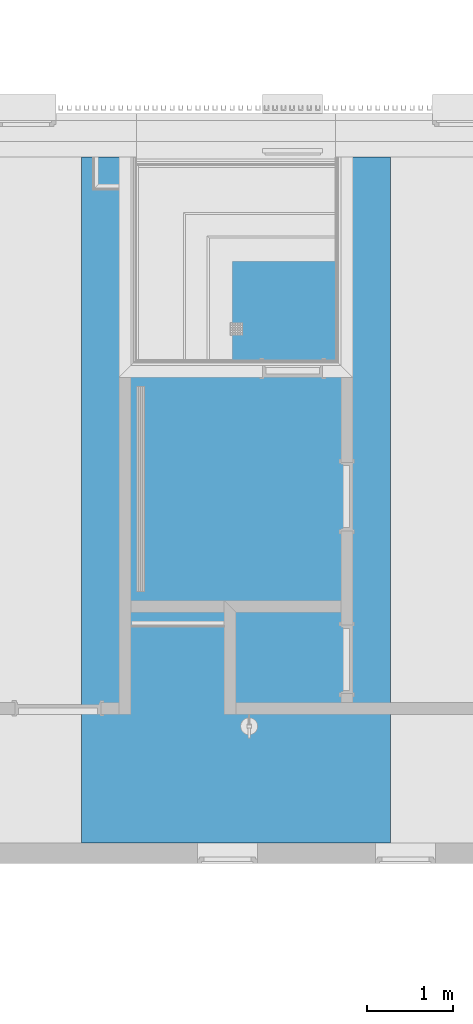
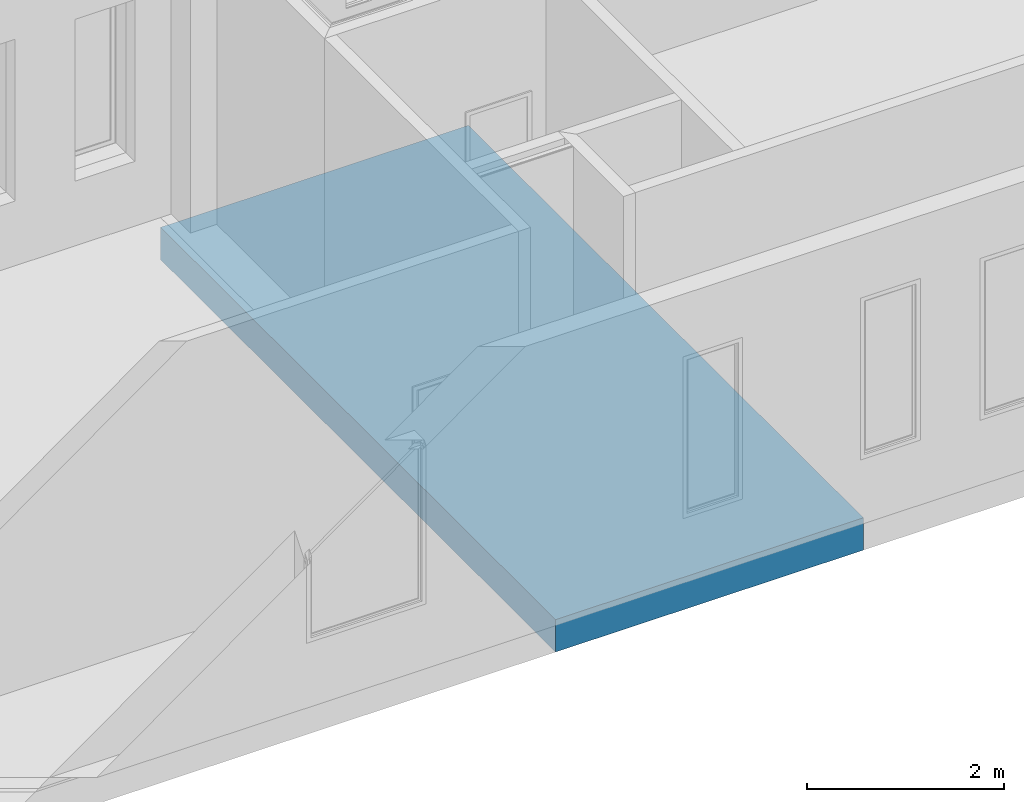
# One storey, part 62 of 100: 1 building element part, 1 element without a shape of its own.
"""IFC2X3 building model written with IfcOpenShell, lengths in millimetres."""

from ifc_helpers import new_model, entity, si_unit, converted_unit, derived_unit, money_unit, direction, frame, origin_with_axes, place, context, subcontext, project, spatial, polyline, outline, extrude, boolean, faceted_brep, material, type_object, element, aggregate, save


model = new_model("IFC2X3")

# Units and contexts
model_context = context("Model", 3, precision=0.01, world=origin_with_axes(), true_north=direction((0.0, 1.0)))
body_context = subcontext(model_context, "Body", "Model", "MODEL_VIEW")
ifc_project = project(units=[si_unit("LENGTHUNIT", "METRE", prefix="MILLI"), si_unit("AREAUNIT", "SQUARE_METRE"), si_unit("VOLUMEUNIT", "CUBIC_METRE"), converted_unit("PLANEANGLEUNIT", "DEGREE", entity("IfcPlaneAngleMeasure", 0.0174532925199), si_unit("PLANEANGLEUNIT", "RADIAN"), dimensions=[0, 0, 0, 0, 0, 0, 0]), si_unit("SOLIDANGLEUNIT", "STERADIAN"), money_unit("EUR"), converted_unit("TIMEUNIT", "Year", entity("IfcTimeMeasure", 31556926.0), si_unit("TIMEUNIT", "SECOND"), dimensions=[0, 0, 1, 0, 0, 0, 0]), si_unit("MASSUNIT", "GRAM", prefix="KILO"), si_unit("THERMODYNAMICTEMPERATUREUNIT", "DEGREE_CELSIUS"), si_unit("LUMINOUSINTENSITYUNIT", "LUMEN"), si_unit("ENERGYUNIT", "JOULE", prefix="MEGA"), derived_unit("THERMALCONDUCTANCEUNIT", [(si_unit("POWERUNIT", "WATT"), 1), (si_unit("LENGTHUNIT", "METRE"), -1), (si_unit("THERMODYNAMICTEMPERATUREUNIT", "KELVIN"), -1)]), derived_unit("SPECIFICHEATCAPACITYUNIT", [(si_unit("ENERGYUNIT", "JOULE"), 1), (si_unit("MASSUNIT", "GRAM", prefix="KILO"), -1), (si_unit("THERMODYNAMICTEMPERATUREUNIT", "KELVIN"), -1)]), derived_unit("MASSDENSITYUNIT", [(si_unit("MASSUNIT", "GRAM", prefix="KILO"), 1), (si_unit("VOLUMEUNIT", "CUBIC_METRE"), -1)])], contexts=[model_context])

# Site, building, storey
site_placement = place(None, origin_with_axes())
site = spatial("IfcSite", under=ifc_project, at=site_placement, Name="Politse- ja Piirivalveameti ning Päästeameti ühishoone", CompositionType="ELEMENT")
building_placement = place(site_placement, origin_with_axes())
building = spatial("IfcBuilding", under=site, at=building_placement, Name="Politse- ja Piirivalveameti ning Päästeameti ühishoone", CompositionType="ELEMENT")
storey_placement = place(building_placement, frame((0.0, 0.0, 3800.0), z_axis=(0.0, 0.0, 1.0), x_axis=(1.0, 0.0, 0.0)))
storey = spatial("IfcBuildingStorey", under=building, at=storey_placement, Name="Teine korrus", CompositionType="ELEMENT", Elevation=3800.0)

# Slab, building element part
slab_type = type_object("IfcSlabType", Name="VL-05_Vahelagi   400 paneel 520", PredefinedType="NOTDEFINED")
slab_placement = place(storey_placement, frame((42610.0318541, 13000.0198611, 0.0), z_axis=(0.0, 0.0, 1.0), x_axis=(1.0, 0.0, 0.0)))
slab = element("IfcSlab", 1, at=slab_placement, inside=storey, type_object=slab_type, Name="VL-05", PredefinedType="NOTDEFINED")
ifc_material = material(Name="KON-06_Raudbetoon - Konstruktsioon")
building_element_part_placement = place(slab_placement, origin_with_axes())
building_element_part = element("IfcBuildingElementPart", 2, at=building_element_part_placement, material=ifc_material, Name="KON-06_Raudbetoon - Konstruktsioon", context=body_context, shape_type="CSG", body=[
    boolean("DIFFERENCE", boolean("DIFFERENCE", boolean("DIFFERENCE", extrude(outline(polyline([(0.0, 0.0), (3599.96251087, 0.0), (3599.99627145, 7999.8850733), (-0.00384055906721, 7999.87354941), (0.0, 0.0)])), frame((0.0, 0.0, -520.0), z_axis=(0.0, 0.0, 1.0), x_axis=(1.0, 0.0, 0.0)), (0.0, 0.0, 1.0), 400.0), faceted_brep([(1730.20181919, 5919.88844434, -90.0), (1880.20181919, 5919.88844434, -90.0), (1880.20181919, 6069.88844434, -90.0), (1730.20181919, 6069.88844434, -90.0), (1849.70181919, 6039.38844434, -90.0), (1849.70181919, 6064.88844434, -90.0), (1875.20181919, 6064.88844434, -90.0), (1875.20181919, 6039.38844434, -90.0), (1849.70181919, 6010.38844434, -90.0), (1849.70181919, 6037.38844434, -90.0), (1875.20181919, 6037.38844434, -90.0), (1875.20181919, 6010.38844434, -90.0), (1849.70181919, 5981.38844434, -90.0), (1849.70181919, 6008.38844434, -90.0), (1875.20181919, 6008.38844434, -90.0), (1875.20181919, 5981.38844434, -90.0), (1849.70181919, 5952.38844434, -90.0), (1849.70181919, 5979.38844434, -90.0), (1875.20181919, 5979.38844434, -90.0), (1875.20181919, 5952.38844434, -90.0), (1820.70181919, 6039.38844434, -90.0), (1820.70181919, 6064.88844434, -90.0), (1847.70181919, 6064.88844434, -90.0), (1847.70181919, 6039.38844434, -90.0), (1820.70181919, 6010.38844434, -90.0), (1820.70181919, 6037.38844434, -90.0), (1847.70181919, 6037.38844434, -90.0), (1847.70181919, 6010.38844434, -90.0), (1820.70181919, 5981.38844434, -90.0), (1820.70181919, 6008.38844434, -90.0), (1847.70181919, 6008.38844434, -90.0), (1847.70181919, 5981.38844434, -90.0), (1820.70181919, 5952.38844434, -90.0), (1820.70181919, 5979.38844434, -90.0), (1847.70181919, 5979.38844434, -90.0), (1847.70181919, 5952.38844434, -90.0), (1791.70181919, 6039.38844434, -90.0), (1791.70181889, 6064.88844434, -90.0), (1818.70181919, 6064.88844434, -90.0), (1818.70181919, 6039.38844434, -90.0), (1791.70181919, 6010.38844434, -90.0), (1791.70181919, 6037.38844434, -90.0), (1818.70181919, 6037.38844434, -90.0), (1818.70181919, 6010.38844434, -90.0), (1791.70181919, 5981.38844434, -90.0), (1791.70181919, 6008.38844434, -90.0), (1818.70181919, 6008.38844434, -90.0), (1818.70181919, 5981.38844434, -90.0), (1791.70181919, 5952.38844434, -90.0), (1791.70181919, 5979.38844434, -90.0), (1818.70181919, 5979.38844434, -90.0), (1818.70181919, 5952.38844434, -90.0), (1762.70181919, 6039.38844434, -90.0), (1762.70181889, 6064.88844434, -90.0), (1789.70181919, 6064.88844434, -90.0), (1789.70181919, 6039.38844434, -90.0), (1762.70181919, 6010.38844434, -90.0), (1762.70181919, 6037.38844434, -90.0), (1789.70181919, 6037.38844434, -90.0), (1789.70181919, 6010.38844434, -90.0), (1762.70181919, 5981.38844434, -90.0), (1762.70181919, 6008.38844434, -90.0), (1789.70181919, 6008.38844434, -90.0), (1789.70181919, 5981.38844434, -90.0), (1762.70181919, 5952.38844434, -90.0), (1762.70181919, 5979.38844434, -90.0), (1789.70181919, 5979.38844434, -90.0), (1789.70181919, 5952.38844434, -90.0), (1735.20181919, 6039.38844434, -90.0), (1735.20181919, 6064.88844434, -90.0), (1760.70181919, 6064.88844434, -90.0), (1760.70181919, 6039.38844434, -90.0), (1735.20181919, 6010.38844434, -90.0), (1735.20181919, 6037.38844434, -90.0), (1760.70181919, 6037.38844434, -90.0), (1760.70181919, 6010.38844434, -90.0), (1735.20181919, 5981.38844434, -90.0), (1735.20181919, 6008.38844434, -90.0), (1760.70181919, 6008.38844434, -90.0), (1760.70181919, 5981.38844434, -90.0), (1735.20181919, 5952.38844434, -90.0), (1735.20181919, 5979.38844434, -90.0), (1760.70181919, 5979.38844434, -90.0), (1760.70181919, 5952.38844434, -90.0), (1735.20181919, 5924.88844434, -90.0), (1735.20181919, 5950.38844434, -90.0), (1760.70181919, 5950.38844434, -90.0), (1760.70181919, 5924.88844434, -90.0), (1762.70181919, 5924.88844434, -90.0), (1762.70181919, 5950.38844434, -90.0), (1789.70181919, 5950.38844434, -90.0), (1789.70181919, 5924.88844434, -90.0), (1791.70181919, 5924.88844434, -90.0), (1791.70181919, 5950.38844434, -90.0), (1818.70181919, 5950.38844434, -90.0), (1818.70181919, 5924.88844434, -90.0), (1820.70181919, 5924.88844434, -90.0), (1820.70181919, 5950.38844434, -90.0), (1847.70181919, 5950.38844434, -90.0), (1847.70181919, 5924.88844434, -90.0), (1849.70181919, 5924.88844434, -90.0), (1849.70181919, 5950.38844434, -90.0), (1875.20181919, 5950.38844434, -90.0), (1875.20181919, 5924.88844434, -90.0), (1730.20181919, 5919.88844434, -100.0), (1880.20181919, 5919.88844434, -100.0), (1880.20181919, 6069.88844434, -100.0), (1730.20181919, 6069.88844434, -100.0), (1849.70181919, 6039.38844434, -100.0), (1849.70181919, 6064.88844434, -100.0), (1875.20181919, 6064.88844434, -100.0), (1875.20181919, 6039.38844434, -100.0), (1849.70181919, 6010.38844434, -100.0), (1849.70181919, 6037.38844434, -100.0), (1875.20181919, 6037.38844434, -100.0), (1875.20181919, 6010.38844434, -100.0), (1849.70181919, 5981.38844434, -100.0), (1849.70181919, 6008.38844434, -100.0), (1875.20181919, 6008.38844434, -100.0), (1875.20181919, 5981.38844434, -100.0), (1849.70181919, 5952.38844434, -100.0), (1849.70181919, 5979.38844434, -100.0), (1875.20181919, 5979.38844434, -100.0), (1875.20181919, 5952.38844434, -100.0), (1820.70181919, 6039.38844434, -100.0), (1820.70181919, 6064.88844434, -100.0), (1847.70181919, 6064.88844434, -100.0), (1847.70181919, 6039.38844434, -100.0), (1820.70181919, 6010.38844434, -100.0), (1820.70181919, 6037.38844434, -100.0), (1847.70181919, 6037.38844434, -100.0), (1847.70181919, 6010.38844434, -100.0), (1820.70181919, 5981.38844434, -100.0), (1820.70181919, 6008.38844434, -100.0), (1847.70181919, 6008.38844434, -100.0), (1847.70181919, 5981.38844434, -100.0), (1820.70181919, 5952.38844434, -100.0), (1820.70181919, 5979.38844434, -100.0), (1847.70181919, 5979.38844434, -100.0), (1847.70181919, 5952.38844434, -100.0), (1791.70181919, 6039.38844434, -100.0), (1791.70181889, 6064.88844434, -100.0), (1818.70181919, 6064.88844434, -100.0), (1818.70181919, 6039.38844434, -100.0), (1791.70181919, 6010.38844434, -100.0), (1791.70181919, 6037.38844434, -100.0), (1818.70181919, 6037.38844434, -100.0), (1818.70181919, 6010.38844434, -100.0), (1791.70181919, 5981.38844434, -100.0), (1791.70181919, 6008.38844434, -100.0), (1818.70181919, 6008.38844434, -100.0), (1818.70181919, 5981.38844434, -100.0), (1791.70181919, 5952.38844434, -100.0), (1791.70181919, 5979.38844434, -100.0), (1818.70181919, 5979.38844434, -100.0), (1818.70181919, 5952.38844434, -100.0), (1762.70181919, 6039.38844434, -100.0), (1762.70181889, 6064.88844434, -100.0), (1789.70181919, 6064.88844434, -100.0), (1789.70181919, 6039.38844434, -100.0), (1762.70181919, 6010.38844434, -100.0), (1762.70181919, 6037.38844434, -100.0), (1789.70181919, 6037.38844434, -100.0), (1789.70181919, 6010.38844434, -100.0), (1762.70181919, 5981.38844434, -100.0), (1762.70181919, 6008.38844434, -100.0), (1789.70181919, 6008.38844434, -100.0), (1789.70181919, 5981.38844434, -100.0), (1762.70181919, 5952.38844434, -100.0), (1762.70181919, 5979.38844434, -100.0), (1789.70181919, 5979.38844434, -100.0), (1789.70181919, 5952.38844434, -100.0), (1735.20181919, 6039.38844434, -100.0), (1735.20181919, 6064.88844434, -100.0), (1760.70181919, 6064.88844434, -100.0), (1760.70181919, 6039.38844434, -100.0), (1735.20181919, 6010.38844434, -100.0), (1735.20181919, 6037.38844434, -100.0), (1760.70181919, 6037.38844434, -100.0), (1760.70181919, 6010.38844434, -100.0), (1735.20181919, 5981.38844434, -100.0), (1735.20181919, 6008.38844434, -100.0), (1760.70181919, 6008.38844434, -100.0), (1760.70181919, 5981.38844434, -100.0), (1735.20181919, 5952.38844434, -100.0), (1735.20181919, 5979.38844434, -100.0), (1760.70181919, 5979.38844434, -100.0), (1760.70181919, 5952.38844434, -100.0), (1735.20181919, 5924.88844434, -100.0), (1735.20181919, 5950.38844434, -100.0), (1760.70181919, 5950.38844434, -100.0), (1760.70181919, 5924.88844434, -100.0), (1762.70181919, 5924.88844434, -100.0), (1762.70181919, 5950.38844434, -100.0), (1789.70181919, 5950.38844434, -100.0), (1789.70181919, 5924.88844434, -100.0), (1791.70181919, 5924.88844434, -100.0), (1791.70181919, 5950.38844434, -100.0), (1818.70181919, 5950.38844434, -100.0), (1818.70181919, 5924.88844434, -100.0), (1820.70181919, 5924.88844434, -100.0), (1820.70181919, 5950.38844434, -100.0), (1847.70181919, 5950.38844434, -100.0), (1847.70181919, 5924.88844434, -100.0), (1849.70181919, 5924.88844434, -100.0), (1849.70181919, 5950.38844434, -100.0), (1875.20181919, 5950.38844434, -100.0), (1875.20181919, 5924.88844434, -100.0)], [[[0, 1, 2, 3], [4, 5, 6, 7], [8, 9, 10, 11], [12, 13, 14, 15], [16, 17, 18, 19], [20, 21, 22, 23], [24, 25, 26, 27], [28, 29, 30, 31], [32, 33, 34, 35], [36, 37, 38, 39], [40, 41, 42, 43], [44, 45, 46, 47], [48, 49, 50, 51], [52, 53, 54, 55], [56, 57, 58, 59], [60, 61, 62, 63], [64, 65, 66, 67], [68, 69, 70, 71], [72, 73, 74, 75], [76, 77, 78, 79], [80, 81, 82, 83], [84, 85, 86, 87], [88, 89, 90, 91], [92, 93, 94, 95], [96, 97, 98, 99], [100, 101, 102, 103]], [[1, 0, 104, 105]], [[2, 1, 105, 106]], [[3, 2, 106, 107]], [[0, 3, 107, 104]], [[5, 4, 108, 109]], [[6, 5, 109, 110]], [[7, 6, 110, 111]], [[4, 7, 111, 108]], [[9, 8, 112, 113]], [[10, 9, 113, 114]], [[11, 10, 114, 115]], [[8, 11, 115, 112]], [[13, 12, 116, 117]], [[14, 13, 117, 118]], [[15, 14, 118, 119]], [[12, 15, 119, 116]], [[17, 16, 120, 121]], [[18, 17, 121, 122]], [[19, 18, 122, 123]], [[16, 19, 123, 120]], [[21, 20, 124, 125]], [[22, 21, 125, 126]], [[23, 22, 126, 127]], [[20, 23, 127, 124]], [[25, 24, 128, 129]], [[26, 25, 129, 130]], [[27, 26, 130, 131]], [[24, 27, 131, 128]], [[29, 28, 132, 133]], [[30, 29, 133, 134]], [[31, 30, 134, 135]], [[28, 31, 135, 132]], [[33, 32, 136, 137]], [[34, 33, 137, 138]], [[35, 34, 138, 139]], [[32, 35, 139, 136]], [[37, 36, 140, 141]], [[38, 37, 141, 142]], [[39, 38, 142, 143]], [[36, 39, 143, 140]], [[41, 40, 144, 145]], [[42, 41, 145, 146]], [[43, 42, 146, 147]], [[40, 43, 147, 144]], [[45, 44, 148, 149]], [[46, 45, 149, 150]], [[47, 46, 150, 151]], [[44, 47, 151, 148]], [[49, 48, 152, 153]], [[50, 49, 153, 154]], [[51, 50, 154, 155]], [[48, 51, 155, 152]], [[53, 52, 156, 157]], [[54, 53, 157, 158]], [[55, 54, 158, 159]], [[52, 55, 159, 156]], [[57, 56, 160, 161]], [[58, 57, 161, 162]], [[59, 58, 162, 163]], [[56, 59, 163, 160]], [[61, 60, 164, 165]], [[62, 61, 165, 166]], [[63, 62, 166, 167]], [[60, 63, 167, 164]], [[65, 64, 168, 169]], [[66, 65, 169, 170]], [[67, 66, 170, 171]], [[64, 67, 171, 168]], [[69, 68, 172, 173]], [[70, 69, 173, 174]], [[71, 70, 174, 175]], [[68, 71, 175, 172]], [[73, 72, 176, 177]], [[74, 73, 177, 178]], [[75, 74, 178, 179]], [[72, 75, 179, 176]], [[77, 76, 180, 181]], [[78, 77, 181, 182]], [[79, 78, 182, 183]], [[76, 79, 183, 180]], [[81, 80, 184, 185]], [[82, 81, 185, 186]], [[83, 82, 186, 187]], [[80, 83, 187, 184]], [[85, 84, 188, 189]], [[86, 85, 189, 190]], [[87, 86, 190, 191]], [[84, 87, 191, 188]], [[89, 88, 192, 193]], [[90, 89, 193, 194]], [[91, 90, 194, 195]], [[88, 91, 195, 192]], [[93, 92, 196, 197]], [[94, 93, 197, 198]], [[95, 94, 198, 199]], [[92, 95, 199, 196]], [[97, 96, 200, 201]], [[98, 97, 201, 202]], [[99, 98, 202, 203]], [[96, 99, 203, 200]], [[101, 100, 204, 205]], [[102, 101, 205, 206]], [[103, 102, 206, 207]], [[100, 103, 207, 204]], [[107, 173, 172, 177, 176, 181, 180, 185, 184, 189, 188, 191, 192, 195, 196, 199, 200, 203, 204, 207, 206, 123, 122, 119, 118, 115, 114, 111, 110, 106, 105, 104]], [[173, 107, 106, 110, 109, 108, 113, 112, 117, 116, 121, 120, 205, 204, 203, 202, 139, 138, 135, 134, 131, 130, 127, 126, 125, 124, 129, 128, 133, 132, 137, 136, 201, 200, 199, 198, 155, 154, 151, 150, 147, 146, 143, 142, 141, 140, 145, 144, 149, 148, 153, 152, 197, 196, 195, 194, 171, 170, 167, 166, 163, 162, 159, 158, 157, 156, 161, 160, 165, 164, 169, 168, 193, 192, 191, 190, 187, 186, 183, 182, 179, 178, 175, 174]], [[114, 113, 108, 111]], [[117, 112, 115, 118]], [[122, 121, 116, 119]], [[206, 205, 120, 123]], [[130, 129, 124, 127]], [[133, 128, 131, 134]], [[138, 137, 132, 135]], [[201, 136, 139, 202]], [[145, 140, 143, 146]], [[150, 149, 144, 147]], [[154, 153, 148, 151]], [[197, 152, 155, 198]], [[159, 162, 161, 156]], [[166, 165, 160, 163]], [[170, 169, 164, 167]], [[171, 194, 193, 168]], [[175, 178, 177, 172]], [[179, 182, 181, 176]], [[183, 186, 185, 180]], [[187, 190, 189, 184]]])), faceted_brep([(638.379615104, 2928.96744272, 0.0), (738.379615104, 2928.96744272, 0.0), (738.379615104, 5328.96744272, 0.0), (638.379615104, 5328.96744272, 0.0), (638.379615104, 2928.96744272, -50.0), (738.379615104, 2928.96744272, -50.0), (738.379615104, 5328.96744272, -50.0), (638.379615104, 5328.96744272, -50.0), (643.379615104, 5323.96744272, -50.0), (643.379615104, 4129.96744272, -50.0), (643.379615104, 4127.96744272, -50.0), (643.379615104, 2933.96744272, -50.0), (663.629615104, 2933.96744272, -50.0), (665.629615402, 2933.96744272, -50.0), (687.379615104, 2933.96744272, -50.0), (689.379615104, 2933.96744272, -50.0), (711.129615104, 2933.96744272, -50.0), (713.129615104, 2933.96744272, -50.0), (733.379615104, 2933.96744272, -50.0), (733.379615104, 4127.96744272, -50.0), (733.379615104, 4129.96744272, -50.0), (733.379615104, 5323.96744272, -50.0), (713.129615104, 5323.96744272, -50.0), (713.129615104, 4129.96744272, -50.0), (713.129615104, 4127.96744272, -50.0), (711.129615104, 4127.96744272, -50.0), (711.129615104, 4129.96744272, -50.0), (711.129615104, 5323.96744272, -50.0), (689.379615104, 5323.96744272, -50.0), (689.379615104, 4129.96744272, -50.0), (689.379615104, 4127.96744272, -50.0), (687.379615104, 4127.96744272, -50.0), (687.379615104, 4129.96744272, -50.0), (687.379615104, 5323.96744272, -50.0), (665.629615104, 5323.96744272, -50.0), (665.629615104, 4129.96744272, -50.0), (665.629615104, 4127.96744272, -50.0), (663.629615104, 4127.96744272, -50.0), (663.629615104, 4129.96744272, -50.0), (663.629615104, 5323.96744272, -50.0), (643.379615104, 5323.96744272, -31.35), (643.379615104, 4129.96744272, -31.35), (643.379615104, 4127.96744272, -31.35), (643.379615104, 2933.96744272, -31.35), (663.629615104, 2933.96744272, -31.35), (665.629615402, 2933.96744272, -31.35), (687.379615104, 2933.96744272, -31.35), (689.379615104, 2933.96744272, -31.35), (711.129615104, 2933.96744272, -31.35), (713.129615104, 2933.96744272, -31.35), (733.379615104, 2933.96744272, -31.35), (733.379615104, 4127.96744272, -31.35), (733.379615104, 4129.96744272, -31.35), (733.379615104, 5323.96744272, -31.35), (713.129615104, 5323.96744272, -31.35), (713.129615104, 4129.96744272, -31.35), (713.129615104, 4127.96744272, -31.35), (711.129615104, 4127.96744272, -31.35), (711.129615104, 4129.96744272, -31.35), (711.129615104, 5323.96744272, -31.35), (689.379615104, 5323.96744272, -31.35), (689.379615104, 4129.96744272, -31.35), (689.379615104, 4127.96744272, -31.35), (687.379615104, 4127.96744272, -31.35), (687.379615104, 4129.96744272, -31.35), (687.379615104, 5323.96744272, -31.35), (665.629615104, 5323.96744272, -31.35), (665.629615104, 4129.96744272, -31.35), (665.629615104, 4127.96744272, -31.35), (663.629615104, 4127.96744272, -31.35), (663.629615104, 4129.96744272, -31.35), (663.629615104, 5323.96744272, -31.35)], [[[0, 1, 2, 3]], [[1, 0, 4, 5]], [[2, 1, 5, 6]], [[3, 2, 6, 7]], [[0, 3, 7, 4]], [[7, 8, 9, 10, 11, 12, 13, 14, 15, 16, 17, 18, 19, 20, 21, 6, 5, 4]], [[8, 7, 6, 21, 22, 23, 24, 17, 16, 25, 26, 27, 28, 29, 30, 15, 14, 31, 32, 33, 34, 35, 36, 13, 12, 37, 38, 39]], [[8, 40, 41, 9]], [[10, 9, 38, 37]], [[10, 42, 43, 11]], [[11, 43, 44, 12]], [[13, 45, 46, 14]], [[15, 47, 48, 16]], [[17, 49, 50, 18]], [[18, 50, 51, 19]], [[24, 23, 20, 19]], [[20, 52, 53, 21]], [[54, 22, 21, 53]], [[22, 54, 55, 23]], [[49, 17, 24, 56]], [[16, 48, 57, 25]], [[25, 30, 29, 26]], [[26, 58, 59, 27]], [[60, 28, 27, 59]], [[28, 60, 61, 29]], [[47, 15, 30, 62]], [[63, 31, 14, 46]], [[36, 35, 32, 31]], [[32, 64, 65, 33]], [[66, 34, 33, 65]], [[34, 66, 67, 35]], [[36, 68, 45, 13]], [[69, 37, 12, 44]], [[38, 70, 71, 39]], [[40, 8, 39, 71]], [[41, 40, 71, 70]], [[9, 41, 70, 38]], [[42, 10, 37, 69]], [[43, 42, 69, 44]], [[68, 63, 46, 45]], [[48, 47, 62, 57]], [[50, 49, 56, 51]], [[56, 24, 19, 51]], [[23, 55, 52, 20]], [[52, 55, 54, 53]], [[62, 30, 25, 57]], [[29, 61, 58, 26]], [[61, 60, 59, 58]], [[68, 36, 31, 63]], [[35, 67, 64, 32]], [[64, 67, 66, 65]]])), faceted_brep([(1730.20181919, 5919.88844434, -90.0), (1730.20181919, 6069.88844434, -90.0), (1880.20181919, 6069.88844434, -90.0), (1880.20181919, 5919.88844434, -90.0), (1849.70181919, 6039.38844434, -90.0), (1875.20181919, 6039.38844434, -90.0), (1875.20181919, 6064.88844434, -90.0), (1849.70181919, 6064.88844434, -90.0), (1849.70181919, 6010.38844434, -90.0), (1875.20181919, 6010.38844434, -90.0), (1875.20181919, 6037.38844434, -90.0), (1849.70181919, 6037.38844434, -90.0), (1849.70181919, 5981.38844434, -90.0), (1875.20181919, 5981.38844434, -90.0), (1875.20181919, 6008.38844434, -90.0), (1849.70181919, 6008.38844434, -90.0), (1849.70181919, 5952.38844434, -90.0), (1875.20181919, 5952.38844434, -90.0), (1875.20181919, 5979.38844434, -90.0), (1849.70181919, 5979.38844434, -90.0), (1820.70181919, 6039.38844434, -90.0), (1847.70181919, 6039.38844434, -90.0), (1847.70181919, 6064.88844434, -90.0), (1820.70181919, 6064.88844434, -90.0), (1820.70181919, 6010.38844434, -90.0), (1847.70181919, 6010.38844434, -90.0), (1847.70181919, 6037.38844434, -90.0), (1820.70181919, 6037.38844434, -90.0), (1820.70181919, 5981.38844434, -90.0), (1847.70181919, 5981.38844434, -90.0), (1847.70181919, 6008.38844434, -90.0), (1820.70181919, 6008.38844434, -90.0), (1820.70181919, 5952.38844434, -90.0), (1847.70181919, 5952.38844434, -90.0), (1847.70181919, 5979.38844434, -90.0), (1820.70181919, 5979.38844434, -90.0), (1791.70181919, 6039.38844434, -90.0), (1818.70181919, 6039.38844434, -90.0), (1818.70181919, 6064.88844434, -90.0), (1791.70181889, 6064.88844434, -90.0), (1791.70181919, 6010.38844434, -90.0), (1818.70181919, 6010.38844434, -90.0), (1818.70181919, 6037.38844434, -90.0), (1791.70181919, 6037.38844434, -90.0), (1791.70181919, 5981.38844434, -90.0), (1818.70181919, 5981.38844434, -90.0), (1818.70181919, 6008.38844434, -90.0), (1791.70181919, 6008.38844434, -90.0), (1791.70181919, 5952.38844434, -90.0), (1818.70181919, 5952.38844434, -90.0), (1818.70181919, 5979.38844434, -90.0), (1791.70181919, 5979.38844434, -90.0), (1762.70181919, 6039.38844434, -90.0), (1789.70181919, 6039.38844434, -90.0), (1789.70181919, 6064.88844434, -90.0), (1762.70181889, 6064.88844434, -90.0), (1762.70181919, 6010.38844434, -90.0), (1789.70181919, 6010.38844434, -90.0), (1789.70181919, 6037.38844434, -90.0), (1762.70181919, 6037.38844434, -90.0), (1762.70181919, 5981.38844434, -90.0), (1789.70181919, 5981.38844434, -90.0), (1789.70181919, 6008.38844434, -90.0), (1762.70181919, 6008.38844434, -90.0), (1762.70181919, 5952.38844434, -90.0), (1789.70181919, 5952.38844434, -90.0), (1789.70181919, 5979.38844434, -90.0), (1762.70181919, 5979.38844434, -90.0), (1735.20181919, 6039.38844434, -90.0), (1760.70181919, 6039.38844434, -90.0), (1760.70181919, 6064.88844434, -90.0), (1735.20181919, 6064.88844434, -90.0), (1735.20181919, 6010.38844434, -90.0), (1760.70181919, 6010.38844434, -90.0), (1760.70181919, 6037.38844434, -90.0), (1735.20181919, 6037.38844434, -90.0), (1735.20181919, 5981.38844434, -90.0), (1760.70181919, 5981.38844434, -90.0), (1760.70181919, 6008.38844434, -90.0), (1735.20181919, 6008.38844434, -90.0), (1735.20181919, 5952.38844434, -90.0), (1760.70181919, 5952.38844434, -90.0), (1760.70181919, 5979.38844434, -90.0), (1735.20181919, 5979.38844434, -90.0), (1735.20181919, 5924.88844434, -90.0), (1760.70181919, 5924.88844434, -90.0), (1760.70181919, 5950.38844434, -90.0), (1735.20181919, 5950.38844434, -90.0), (1762.70181919, 5924.88844434, -90.0), (1789.70181919, 5924.88844434, -90.0), (1789.70181919, 5950.38844434, -90.0), (1762.70181919, 5950.38844434, -90.0), (1791.70181919, 5924.88844434, -90.0), (1818.70181919, 5924.88844434, -90.0), (1818.70181919, 5950.38844434, -90.0), (1791.70181919, 5950.38844434, -90.0), (1820.70181919, 5924.88844434, -90.0), (1847.70181919, 5924.88844434, -90.0), (1847.70181919, 5950.38844434, -90.0), (1820.70181919, 5950.38844434, -90.0), (1849.70181919, 5924.88844434, -90.0), (1875.20181919, 5924.88844434, -90.0), (1875.20181919, 5950.38844434, -90.0), (1849.70181919, 5950.38844434, -90.0), (1730.20181919, 5919.88844434, 0.0), (1730.20181919, 6069.88844434, 0.0), (1880.20181919, 6069.88844434, 0.0), (1880.20181919, 5919.88844434, 0.0), (1849.70181919, 6039.38844434, -56.35), (1875.20181919, 6039.38844434, -56.35), (1875.20181919, 6064.88844434, -56.35), (1849.70181919, 6064.88844434, -56.35), (1849.70181919, 6010.38844434, -56.35), (1875.20181919, 6010.38844434, -56.35), (1875.20181919, 6037.38844434, -56.35), (1849.70181919, 6037.38844434, -56.35), (1849.70181919, 5981.38844434, -56.35), (1875.20181919, 5981.38844434, -56.35), (1875.20181919, 6008.38844434, -56.35), (1849.70181919, 6008.38844434, -56.35), (1849.70181919, 5952.38844434, -56.35), (1875.20181919, 5952.38844434, -56.35), (1875.20181919, 5979.38844434, -56.35), (1849.70181919, 5979.38844434, -56.35), (1820.70181919, 6039.38844434, -56.35), (1847.70181919, 6039.38844434, -56.35), (1847.70181919, 6064.88844434, -56.35), (1820.70181919, 6064.88844434, -56.35), (1820.70181919, 6010.38844434, -56.35), (1847.70181919, 6010.38844434, -56.35), (1847.70181919, 6037.38844434, -56.35), (1820.70181919, 6037.38844434, -56.35), (1820.70181919, 5981.38844434, -56.35), (1847.70181919, 5981.38844434, -56.35), (1847.70181919, 6008.38844434, -56.35), (1820.70181919, 6008.38844434, -56.35), (1820.70181919, 5952.38844434, -56.35), (1847.70181919, 5952.38844434, -56.35), (1847.70181919, 5979.38844434, -56.35), (1820.70181919, 5979.38844434, -56.35), (1791.70181919, 6039.38844434, -56.35), (1818.70181919, 6039.38844434, -56.35), (1818.70181919, 6064.88844434, -56.35), (1791.70181889, 6064.88844434, -56.35), (1791.70181919, 6010.38844434, -56.35), (1818.70181919, 6010.38844434, -56.35), (1818.70181919, 6037.38844434, -56.35), (1791.70181919, 6037.38844434, -56.35), (1791.70181919, 5981.38844434, -56.35), (1818.70181919, 5981.38844434, -56.35), (1818.70181919, 6008.38844434, -56.35), (1791.70181919, 6008.38844434, -56.35), (1791.70181919, 5952.38844434, -56.35), (1818.70181919, 5952.38844434, -56.35), (1818.70181919, 5979.38844434, -56.35), (1791.70181919, 5979.38844434, -56.35), (1762.70181919, 6039.38844434, -56.35), (1789.70181919, 6039.38844434, -56.35), (1789.70181919, 6064.88844434, -56.35), (1762.70181889, 6064.88844434, -56.35), (1762.70181919, 6010.38844434, -56.35), (1789.70181919, 6010.38844434, -56.35), (1789.70181919, 6037.38844434, -56.35), (1762.70181919, 6037.38844434, -56.35), (1762.70181919, 5981.38844434, -56.35), (1789.70181919, 5981.38844434, -56.35), (1789.70181919, 6008.38844434, -56.35), (1762.70181919, 6008.38844434, -56.35), (1762.70181919, 5952.38844434, -56.35), (1789.70181919, 5952.38844434, -56.35), (1789.70181919, 5979.38844434, -56.35), (1762.70181919, 5979.38844434, -56.35), (1735.20181919, 6039.38844434, -56.35), (1760.70181919, 6039.38844434, -56.35), (1760.70181919, 6064.88844434, -56.35), (1735.20181919, 6064.88844434, -56.35), (1735.20181919, 6010.38844434, -56.35), (1760.70181919, 6010.38844434, -56.35), (1760.70181919, 6037.38844434, -56.35), (1735.20181919, 6037.38844434, -56.35), (1735.20181919, 5981.38844434, -56.35), (1760.70181919, 5981.38844434, -56.35), (1760.70181919, 6008.38844434, -56.35), (1735.20181919, 6008.38844434, -56.35), (1735.20181919, 5952.38844434, -56.35), (1760.70181919, 5952.38844434, -56.35), (1760.70181919, 5979.38844434, -56.35), (1735.20181919, 5979.38844434, -56.35), (1735.20181919, 5924.88844434, -56.35), (1760.70181919, 5924.88844434, -56.35), (1760.70181919, 5950.38844434, -56.35), (1735.20181919, 5950.38844434, -56.35), (1762.70181919, 5924.88844434, -56.35), (1789.70181919, 5924.88844434, -56.35), (1789.70181919, 5950.38844434, -56.35), (1762.70181919, 5950.38844434, -56.35), (1791.70181919, 5924.88844434, -56.35), (1818.70181919, 5924.88844434, -56.35), (1818.70181919, 5950.38844434, -56.35), (1791.70181919, 5950.38844434, -56.35), (1820.70181919, 5924.88844434, -56.35), (1847.70181919, 5924.88844434, -56.35), (1847.70181919, 5950.38844434, -56.35), (1820.70181919, 5950.38844434, -56.35), (1849.70181919, 5924.88844434, -56.35), (1875.20181919, 5924.88844434, -56.35), (1875.20181919, 5950.38844434, -56.35), (1849.70181919, 5950.38844434, -56.35)], [[[0, 1, 2, 3], [4, 5, 6, 7], [8, 9, 10, 11], [12, 13, 14, 15], [16, 17, 18, 19], [20, 21, 22, 23], [24, 25, 26, 27], [28, 29, 30, 31], [32, 33, 34, 35], [36, 37, 38, 39], [40, 41, 42, 43], [44, 45, 46, 47], [48, 49, 50, 51], [52, 53, 54, 55], [56, 57, 58, 59], [60, 61, 62, 63], [64, 65, 66, 67], [68, 69, 70, 71], [72, 73, 74, 75], [76, 77, 78, 79], [80, 81, 82, 83], [84, 85, 86, 87], [88, 89, 90, 91], [92, 93, 94, 95], [96, 97, 98, 99], [100, 101, 102, 103]], [[104, 105, 1, 0]], [[105, 106, 2, 1]], [[106, 107, 3, 2]], [[107, 104, 0, 3]], [[5, 4, 108, 109]], [[6, 5, 109, 110]], [[7, 6, 110, 111]], [[4, 7, 111, 108]], [[9, 8, 112, 113]], [[10, 9, 113, 114]], [[11, 10, 114, 115]], [[8, 11, 115, 112]], [[13, 12, 116, 117]], [[14, 13, 117, 118]], [[15, 14, 118, 119]], [[12, 15, 119, 116]], [[17, 16, 120, 121]], [[18, 17, 121, 122]], [[19, 18, 122, 123]], [[16, 19, 123, 120]], [[21, 20, 124, 125]], [[22, 21, 125, 126]], [[23, 22, 126, 127]], [[20, 23, 127, 124]], [[25, 24, 128, 129]], [[26, 25, 129, 130]], [[27, 26, 130, 131]], [[24, 27, 131, 128]], [[29, 28, 132, 133]], [[30, 29, 133, 134]], [[31, 30, 134, 135]], [[28, 31, 135, 132]], [[33, 32, 136, 137]], [[34, 33, 137, 138]], [[35, 34, 138, 139]], [[32, 35, 139, 136]], [[37, 36, 140, 141]], [[38, 37, 141, 142]], [[39, 38, 142, 143]], [[36, 39, 143, 140]], [[41, 40, 144, 145]], [[42, 41, 145, 146]], [[43, 42, 146, 147]], [[40, 43, 147, 144]], [[45, 44, 148, 149]], [[46, 45, 149, 150]], [[47, 46, 150, 151]], [[44, 47, 151, 148]], [[49, 48, 152, 153]], [[50, 49, 153, 154]], [[51, 50, 154, 155]], [[48, 51, 155, 152]], [[53, 52, 156, 157]], [[54, 53, 157, 158]], [[55, 54, 158, 159]], [[52, 55, 159, 156]], [[57, 56, 160, 161]], [[58, 57, 161, 162]], [[59, 58, 162, 163]], [[56, 59, 163, 160]], [[61, 60, 164, 165]], [[62, 61, 165, 166]], [[63, 62, 166, 167]], [[60, 63, 167, 164]], [[65, 64, 168, 169]], [[66, 65, 169, 170]], [[67, 66, 170, 171]], [[64, 67, 171, 168]], [[69, 68, 172, 173]], [[70, 69, 173, 174]], [[71, 70, 174, 175]], [[68, 71, 175, 172]], [[73, 72, 176, 177]], [[74, 73, 177, 178]], [[75, 74, 178, 179]], [[72, 75, 179, 176]], [[77, 76, 180, 181]], [[78, 77, 181, 182]], [[79, 78, 182, 183]], [[76, 79, 183, 180]], [[81, 80, 184, 185]], [[82, 81, 185, 186]], [[83, 82, 186, 187]], [[80, 83, 187, 184]], [[85, 84, 188, 189]], [[86, 85, 189, 190]], [[87, 86, 190, 191]], [[84, 87, 191, 188]], [[89, 88, 192, 193]], [[90, 89, 193, 194]], [[91, 90, 194, 195]], [[88, 91, 195, 192]], [[93, 92, 196, 197]], [[94, 93, 197, 198]], [[95, 94, 198, 199]], [[92, 95, 199, 196]], [[97, 96, 200, 201]], [[98, 97, 201, 202]], [[99, 98, 202, 203]], [[96, 99, 203, 200]], [[101, 100, 204, 205]], [[102, 101, 205, 206]], [[103, 102, 206, 207]], [[100, 103, 207, 204]], [[104, 107, 106, 105]], [[110, 109, 108, 111]], [[113, 112, 115, 114]], [[117, 116, 119, 118]], [[122, 121, 120, 123]], [[125, 124, 127, 126]], [[128, 131, 130, 129]], [[133, 132, 135, 134]], [[138, 137, 136, 139]], [[141, 140, 143, 142]], [[145, 144, 147, 146]], [[148, 151, 150, 149]], [[152, 155, 154, 153]], [[157, 156, 159, 158]], [[162, 161, 160, 163]], [[165, 164, 167, 166]], [[168, 171, 170, 169]], [[173, 172, 175, 174]], [[176, 179, 178, 177]], [[180, 183, 182, 181]], [[184, 187, 186, 185]], [[189, 188, 191, 190]], [[192, 195, 194, 193]], [[198, 197, 196, 199]], [[202, 201, 200, 203]], [[206, 205, 204, 207]]])),
])
aggregate(slab, [building_element_part])

save(model, "model.ifc")
